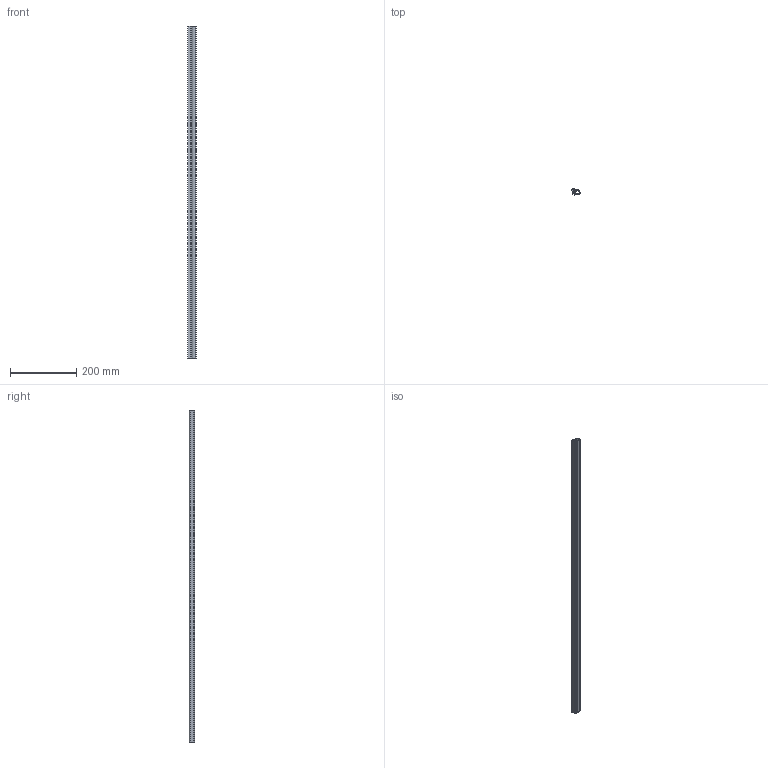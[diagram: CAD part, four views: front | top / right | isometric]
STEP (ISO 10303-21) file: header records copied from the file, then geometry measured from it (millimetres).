
FILE_DESCRIPTION (( 'STEP AP214' ), '1' );
FILE_NAME ('EBET-04.STEP', '2016-02-03T11:40:38', ( '' ), ( '' ), 'SwSTEP 2.0', 'SolidWorks 2012', '' );
FILE_SCHEMA (( 'AUTOMOTIVE_DESIGN' ));
Length unit declared in the file: millimetre
Products named in the file (1): EBET-04
Bounding box: 24.29 x 17.39 x 1000 mm (x, y, z)
Volume: 154806.9 mm3; surface area: 161670.4 mm2
Topology: 1 solids, 1 shells, 65 faces, 189 edges, 126 vertices
Faces by surface type: plane 34, cylinder 31
Entity records: 2203 total; most frequent: DIRECTION 383, CARTESIAN_POINT 381, ORIENTED_EDGE 378, EDGE_CURVE 189, AXIS2_PLACEMENT_3D 128, LINE 127, VECTOR 127, VERTEX_POINT 126
